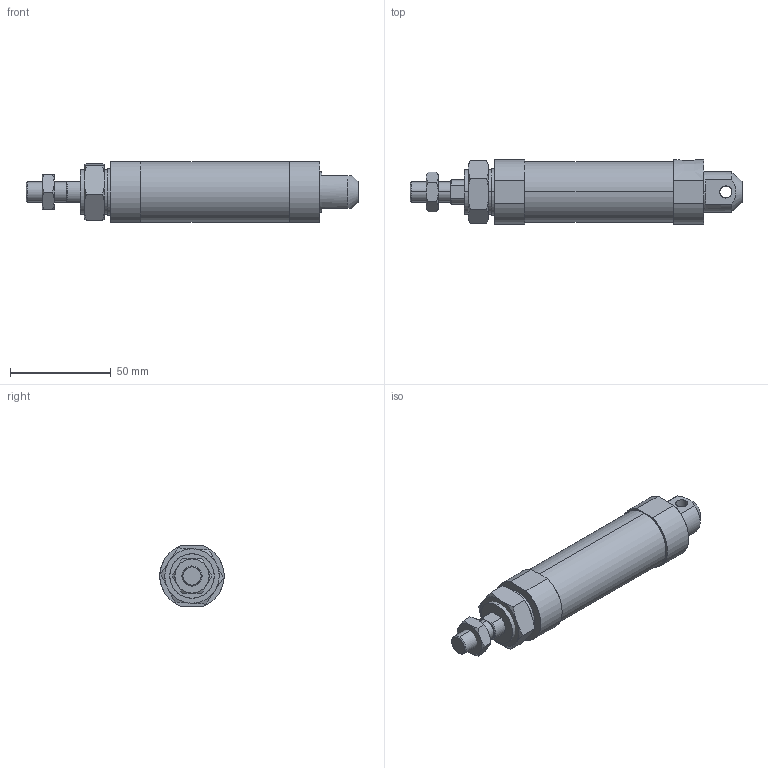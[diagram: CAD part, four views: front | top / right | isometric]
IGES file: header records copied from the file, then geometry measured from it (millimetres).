
Start section: SolidWorks IGES file using analytic representation for surfaces
Global section: file name: C:\Users\Toshiba\Desktop\J#1-25-25-C.IGS; native system: SolidWorks 2014; preprocessor: SolidWorks 2014; author: Toshiba; date: 160308.144617; units: millimetre
Bounding box: 165 x 32 x 30 mm (x, y, z)
Surface area: 18286.2 mm2 (no closed solid volume)
Topology: 0 solids, 0 shells, 93 faces, 1722 edges, 1722 vertices
Faces by surface type: bspline 63, revolution 30
